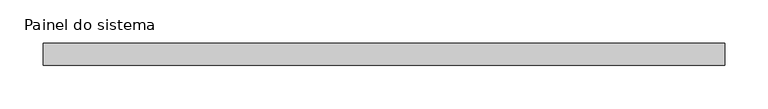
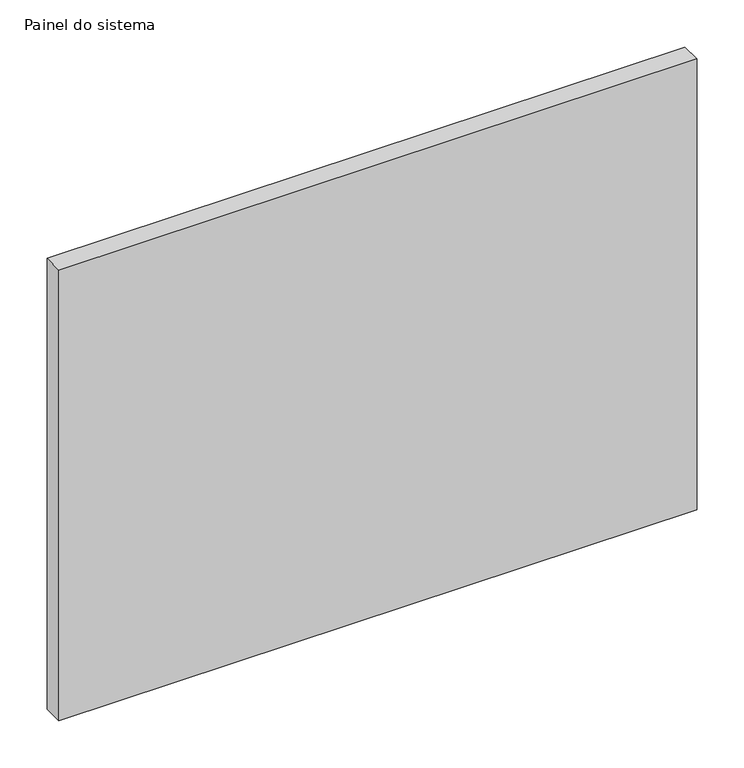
"""IFC4 building model written with IfcOpenShell, lengths in millimetres: plate geometry, Painel do sistema : Envidraçado."""

from ifc_helpers import new_model, si_unit, origin, origin_with_axes, place, context, project, spatial, polyline, outline, extrude, source, transform, mapped, element, save


def painel_do_sistema_7917c279(model_context):
    return source(origin(), model_context, "Body", "SweptSolid", [
        extrude(outline(polyline([(391.65, 24.5), (-391.65, 24.5), (-391.65, 49.5), (391.65, 49.5), (391.65, 24.5)])), origin_with_axes(), (0.0, 0.0, 1.0), 585.0),
    ])


if __name__ == "__main__":
    model = new_model("IFC4")
    model_context = context("Model", 3, world=origin())
    ifc_project = project(units=[si_unit("LENGTHUNIT", "METRE", prefix="MILLI")], contexts=[model_context])
    site = spatial("IfcSite", under=ifc_project)
    building = spatial("IfcBuilding", under=site)
    placement = place(None, origin())
    painel_do_sistema_shape = painel_do_sistema_7917c279(model_context)
    element("IfcPlate", 1, ObjectType="Painel do sistema : Envidraçado", at=placement, inside=building, context=model_context, shape_type="MappedRepresentation", body=[
        mapped(painel_do_sistema_shape, transform((0.0, 0.0, 0.0), x_axis=(1.0, 0.0, 0.0), y_axis=(0.0, 1.0, 0.0), z_axis=(0.0, 0.0, 1.0))),
    ])
    save(model, "model.ifc")
